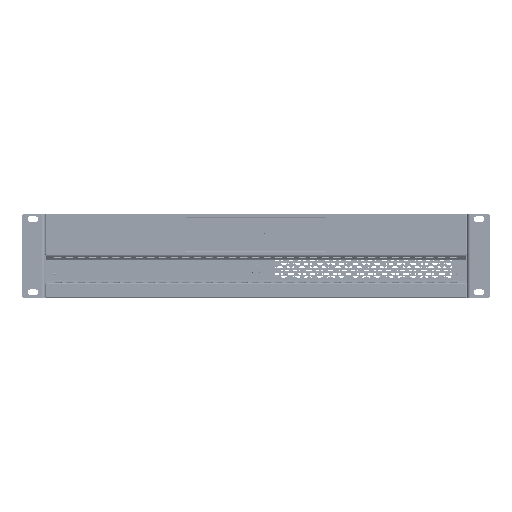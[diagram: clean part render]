
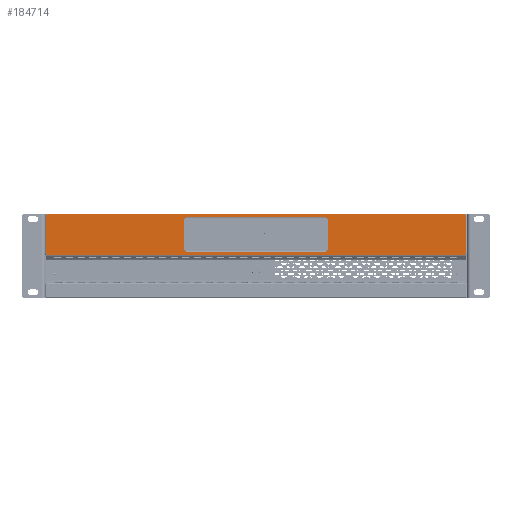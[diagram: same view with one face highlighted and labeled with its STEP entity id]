
A CAD part, top view. The second image highlights one B-rep face of the part: STEP entity #184714.
In plain terms, the highlighted planar face has unit normal (0, 0, 1).
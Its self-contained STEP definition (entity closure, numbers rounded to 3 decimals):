
#846 = CARTESIAN_POINT ( 'NONE',  ( 251.449, 268.418, 349.047 ) ) ;
#1504 = EDGE_CURVE ( 'NONE', #111297, #27135, #63231, .T. ) ;
#1769 = CARTESIAN_POINT ( 'NONE',  ( 254.749, 250.618, 349.047 ) ) ;
#4317 = CIRCLE ( 'NONE', #197555, 1. ) ;
#7196 = EDGE_CURVE ( 'NONE', #266710, #317324, #15328, .T. ) ;
#11450 = CARTESIAN_POINT ( 'NONE',  ( 179.449, 250.618, 349.047 ) ) ;
#14521 = EDGE_CURVE ( 'NONE', #173274, #111297, #242176, .T. ) ;
#15328 = CIRCLE ( 'NONE', #117885, 3.3 ) ;
#18636 = VECTOR ( 'NONE', #197525, 1000. ) ;
#21120 = ORIENTED_EDGE ( 'NONE', *, *, #162879, .T. ) ;
#25534 = LINE ( 'NONE', #846, #18636 ) ;
#27135 = VERTEX_POINT ( 'NONE', #374215 ) ;
#27287 = EDGE_CURVE ( 'NONE', #110923, #266710, #25534, .T. ) ;
#29168 = CARTESIAN_POINT ( 'NONE',  ( 104.149, 265.118, 349.047 ) ) ;
#31330 = AXIS2_PLACEMENT_3D ( 'NONE', #111085, #82715, #231979 ) ;
#33089 = CARTESIAN_POINT ( 'NONE',  ( 104.149, 236.118, 349.047 ) ) ;
#44371 = CARTESIAN_POINT ( 'NONE',  ( 179.449, 229.718, 349.047 ) ) ;
#59194 = CARTESIAN_POINT ( 'NONE',  ( -38.551, 270.518, 349.047 ) ) ;
#59217 = ORIENTED_EDGE ( 'NONE', *, *, #1504, .T. ) ;
#59835 = CARTESIAN_POINT ( 'NONE',  ( 107.449, 236.118, 349.047 ) ) ;
#61551 = VECTOR ( 'NONE', #141295, 1000. ) ;
#63231 = LINE ( 'NONE', #237154, #277308 ) ;
#65397 = DIRECTION ( 'NONE',  ( 0., 0., -1. ) ) ;
#67995 = CARTESIAN_POINT ( 'NONE',  ( 398.449, 230.718, 349.047 ) ) ;
#74472 = CIRCLE ( 'NONE', #345955, 1. ) ;
#74847 = AXIS2_PLACEMENT_3D ( 'NONE', #237620, #352917, #175363 ) ;
#76448 = CIRCLE ( 'NONE', #233521, 3.3 ) ;
#79336 = CARTESIAN_POINT ( 'NONE',  ( 398.449, 250.618, 349.047 ) ) ;
#80450 = EDGE_CURVE ( 'NONE', #317324, #93860, #260795, .T. ) ;
#82114 = DIRECTION ( 'NONE',  ( 0., 1., 0. ) ) ;
#82715 = DIRECTION ( 'NONE',  ( 0., 0., 1. ) ) ;
#83201 = DIRECTION ( 'NONE',  ( 0., 0., -1. ) ) ;
#83525 = CIRCLE ( 'NONE', #186078, 3.3 ) ;
#84617 = CARTESIAN_POINT ( 'NONE',  ( 107.449, 265.118, 349.047 ) ) ;
#93860 = VERTEX_POINT ( 'NONE', #206802 ) ;
#95293 = LINE ( 'NONE', #354260, #182560 ) ;
#98224 = DIRECTION ( 'NONE',  ( -1., 0., 0. ) ) ;
#101757 = CARTESIAN_POINT ( 'NONE',  ( 397.449, 230.718, 349.047 ) ) ;
#103166 = AXIS2_PLACEMENT_3D ( 'NONE', #59194, #154959, #98224 ) ;
#105121 = AXIS2_PLACEMENT_3D ( 'NONE', #11450, #274090, #240227 ) ;
#105785 = EDGE_LOOP ( 'NONE', ( #346548, #214840, #59217, #276258, #321387, #222225, #275377, #371528 ) ) ;
#110923 = VERTEX_POINT ( 'NONE', #118860 ) ;
#111085 = CARTESIAN_POINT ( 'NONE',  ( -38.551, 230.718, 349.047 ) ) ;
#111297 = VERTEX_POINT ( 'NONE', #325802 ) ;
#114544 = EDGE_LOOP ( 'NONE', ( #145726, #197039, #120905, #151418, #267295, #313910, #21120, #267203 ) ) ;
#115247 = VERTEX_POINT ( 'NONE', #67995 ) ;
#117885 = AXIS2_PLACEMENT_3D ( 'NONE', #342152, #83201, #257092 ) ;
#118860 = CARTESIAN_POINT ( 'NONE',  ( 107.449, 268.418, 349.047 ) ) ;
#120905 = ORIENTED_EDGE ( 'NONE', *, *, #27287, .T. ) ;
#121501 = VERTEX_POINT ( 'NONE', #348012 ) ;
#124864 = PLANE ( 'NONE',  #105121 ) ;
#141295 = DIRECTION ( 'NONE',  ( -1., 0., 0. ) ) ;
#145726 = ORIENTED_EDGE ( 'NONE', *, *, #208273, .T. ) ;
#148233 = VERTEX_POINT ( 'NONE', #307849 ) ;
#151418 = ORIENTED_EDGE ( 'NONE', *, *, #7196, .T. ) ;
#154959 = DIRECTION ( 'NONE',  ( 0., 0., 1. ) ) ;
#158847 = FACE_BOUND ( 'NONE', #114544, .T. ) ;
#159717 = DIRECTION ( 'NONE',  ( 1., 0., 0. ) ) ;
#161211 = VECTOR ( 'NONE', #82114, 1000. ) ;
#162847 = EDGE_CURVE ( 'NONE', #27135, #246162, #284480, .T. ) ;
#162879 = EDGE_CURVE ( 'NONE', #241079, #148233, #171558, .T. ) ;
#164086 = EDGE_CURVE ( 'NONE', #200888, #115247, #74472, .T. ) ;
#171558 = LINE ( 'NONE', #284975, #61551 ) ;
#173274 = VERTEX_POINT ( 'NONE', #261799 ) ;
#173384 = DIRECTION ( 'NONE',  ( -1., 0., 0. ) ) ;
#175245 = CARTESIAN_POINT ( 'NONE',  ( 397.449, 270.518, 349.047 ) ) ;
#175363 = DIRECTION ( 'NONE',  ( -1., 0., 0. ) ) ;
#175836 = EDGE_CURVE ( 'NONE', #121501, #110923, #83525, .T. ) ;
#176543 = LINE ( 'NONE', #29168, #161211 ) ;
#180856 = VECTOR ( 'NONE', #159717, 1000. ) ;
#182560 = VECTOR ( 'NONE', #265491, 1000. ) ;
#184714 = ADVANCED_FACE ( 'NONE', ( #158847, #268527 ), #124864, .F. ) ;
#186078 = AXIS2_PLACEMENT_3D ( 'NONE', #84617, #196180, #313381 ) ;
#196180 = DIRECTION ( 'NONE',  ( 0., 0., -1. ) ) ;
#197039 = ORIENTED_EDGE ( 'NONE', *, *, #175836, .T. ) ;
#197525 = DIRECTION ( 'NONE',  ( 1., 0., 0. ) ) ;
#197555 = AXIS2_PLACEMENT_3D ( 'NONE', #175245, #256584, #173384 ) ;
#200325 = DIRECTION ( 'NONE',  ( 0., -1., 0. ) ) ;
#200888 = VERTEX_POINT ( 'NONE', #215230 ) ;
#202457 = CARTESIAN_POINT ( 'NONE',  ( 251.449, 268.418, 349.047 ) ) ;
#206802 = CARTESIAN_POINT ( 'NONE',  ( 254.749, 236.118, 349.047 ) ) ;
#207941 = EDGE_CURVE ( 'NONE', #148233, #268610, #76448, .T. ) ;
#208273 = EDGE_CURVE ( 'NONE', #268610, #121501, #176543, .T. ) ;
#214840 = ORIENTED_EDGE ( 'NONE', *, *, #14521, .T. ) ;
#215230 = CARTESIAN_POINT ( 'NONE',  ( 397.449, 229.718, 349.047 ) ) ;
#216105 = EDGE_CURVE ( 'NONE', #237432, #173274, #95293, .T. ) ;
#220219 = VECTOR ( 'NONE', #235889, 1000. ) ;
#221690 = EDGE_CURVE ( 'NONE', #339492, #237432, #4317, .T. ) ;
#222225 = ORIENTED_EDGE ( 'NONE', *, *, #164086, .T. ) ;
#225410 = EDGE_CURVE ( 'NONE', #115247, #339492, #338316, .T. ) ;
#231147 = CIRCLE ( 'NONE', #74847, 3.3 ) ;
#231979 = DIRECTION ( 'NONE',  ( -1., 0., 0. ) ) ;
#233521 = AXIS2_PLACEMENT_3D ( 'NONE', #59835, #65397, #299714 ) ;
#235889 = DIRECTION ( 'NONE',  ( 0., 1., 0. ) ) ;
#237154 = CARTESIAN_POINT ( 'NONE',  ( -39.551, 250.618, 349.047 ) ) ;
#237432 = VERTEX_POINT ( 'NONE', #365516 ) ;
#237620 = CARTESIAN_POINT ( 'NONE',  ( 251.449, 236.118, 349.047 ) ) ;
#240227 = DIRECTION ( 'NONE',  ( 0., -1., 0. ) ) ;
#241079 = VERTEX_POINT ( 'NONE', #261611 ) ;
#242176 = CIRCLE ( 'NONE', #103166, 1. ) ;
#246162 = VERTEX_POINT ( 'NONE', #309874 ) ;
#247648 = VECTOR ( 'NONE', #200325, 1000. ) ;
#256584 = DIRECTION ( 'NONE',  ( 0., 0., 1. ) ) ;
#257092 = DIRECTION ( 'NONE',  ( -1., 0., 0. ) ) ;
#260795 = LINE ( 'NONE', #1769, #247648 ) ;
#261611 = CARTESIAN_POINT ( 'NONE',  ( 251.449, 232.818, 349.047 ) ) ;
#261799 = CARTESIAN_POINT ( 'NONE',  ( -38.551, 271.518, 349.047 ) ) ;
#265491 = DIRECTION ( 'NONE',  ( -1., 0., 0. ) ) ;
#266710 = VERTEX_POINT ( 'NONE', #202457 ) ;
#267203 = ORIENTED_EDGE ( 'NONE', *, *, #207941, .T. ) ;
#267295 = ORIENTED_EDGE ( 'NONE', *, *, #80450, .T. ) ;
#268527 = FACE_OUTER_BOUND ( 'NONE', #105785, .T. ) ;
#268610 = VERTEX_POINT ( 'NONE', #33089 ) ;
#271893 = DIRECTION ( 'NONE',  ( -1., 0., 0. ) ) ;
#274090 = DIRECTION ( 'NONE',  ( 0., 0., -1. ) ) ;
#275377 = ORIENTED_EDGE ( 'NONE', *, *, #225410, .T. ) ;
#276258 = ORIENTED_EDGE ( 'NONE', *, *, #162847, .T. ) ;
#277308 = VECTOR ( 'NONE', #324064, 1000. ) ;
#284480 = CIRCLE ( 'NONE', #31330, 1. ) ;
#284975 = CARTESIAN_POINT ( 'NONE',  ( 179.449, 232.818, 349.047 ) ) ;
#299714 = DIRECTION ( 'NONE',  ( -1., 0., 0. ) ) ;
#305178 = LINE ( 'NONE', #44371, #180856 ) ;
#307849 = CARTESIAN_POINT ( 'NONE',  ( 107.449, 232.818, 349.047 ) ) ;
#309874 = CARTESIAN_POINT ( 'NONE',  ( -38.551, 229.718, 349.047 ) ) ;
#313381 = DIRECTION ( 'NONE',  ( -1., 0., 0. ) ) ;
#313910 = ORIENTED_EDGE ( 'NONE', *, *, #355960, .T. ) ;
#317324 = VERTEX_POINT ( 'NONE', #341678 ) ;
#321387 = ORIENTED_EDGE ( 'NONE', *, *, #361401, .T. ) ;
#324064 = DIRECTION ( 'NONE',  ( 0., -1., 0. ) ) ;
#324883 = DIRECTION ( 'NONE',  ( 0., 0., 1. ) ) ;
#325802 = CARTESIAN_POINT ( 'NONE',  ( -39.551, 270.518, 349.047 ) ) ;
#330958 = CARTESIAN_POINT ( 'NONE',  ( 398.449, 270.518, 349.047 ) ) ;
#338316 = LINE ( 'NONE', #79336, #220219 ) ;
#339492 = VERTEX_POINT ( 'NONE', #330958 ) ;
#341678 = CARTESIAN_POINT ( 'NONE',  ( 254.749, 265.118, 349.047 ) ) ;
#342152 = CARTESIAN_POINT ( 'NONE',  ( 251.449, 265.118, 349.047 ) ) ;
#345955 = AXIS2_PLACEMENT_3D ( 'NONE', #101757, #324883, #271893 ) ;
#346548 = ORIENTED_EDGE ( 'NONE', *, *, #216105, .T. ) ;
#348012 = CARTESIAN_POINT ( 'NONE',  ( 104.149, 265.118, 349.047 ) ) ;
#352917 = DIRECTION ( 'NONE',  ( 0., 0., -1. ) ) ;
#354260 = CARTESIAN_POINT ( 'NONE',  ( 179.449, 271.518, 349.047 ) ) ;
#355960 = EDGE_CURVE ( 'NONE', #93860, #241079, #231147, .T. ) ;
#361401 = EDGE_CURVE ( 'NONE', #246162, #200888, #305178, .T. ) ;
#365516 = CARTESIAN_POINT ( 'NONE',  ( 397.449, 271.518, 349.047 ) ) ;
#371528 = ORIENTED_EDGE ( 'NONE', *, *, #221690, .T. ) ;
#374215 = CARTESIAN_POINT ( 'NONE',  ( -39.551, 230.718, 349.047 ) ) ;
